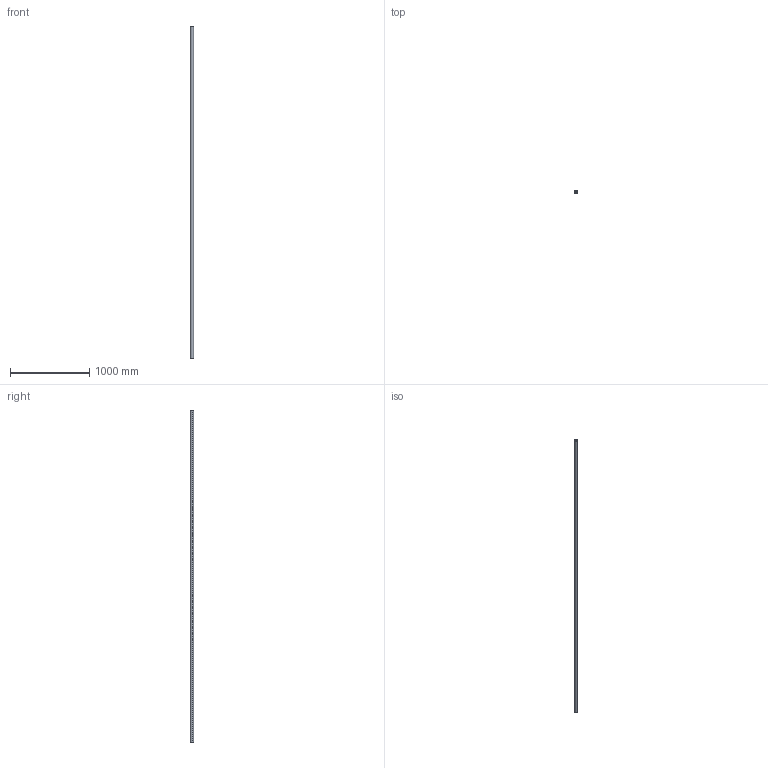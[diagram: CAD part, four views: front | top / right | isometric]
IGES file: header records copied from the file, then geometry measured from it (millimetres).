
Start section: SolidWorks IGES file using analytic representation for surfaces
Global section: file name: C:\Users\IanO\Desktop\L1771_v2\L1771.40_v2\L1771.40_v2_20230705_IGES\L1771.40-4200.igs; native system: SolidWorks 2019; preprocessor: SolidWorks 2019; author: IanO; date: 230705.162351; units: millimetre
Bounding box: 40 x 40 x 4200 mm (x, y, z)
Surface area: 898520.6 mm2 (no closed solid volume)
Topology: 0 solids, 0 shells, 6 faces, 272 edges, 272 vertices
Faces by surface type: revolution 4, bspline 2
